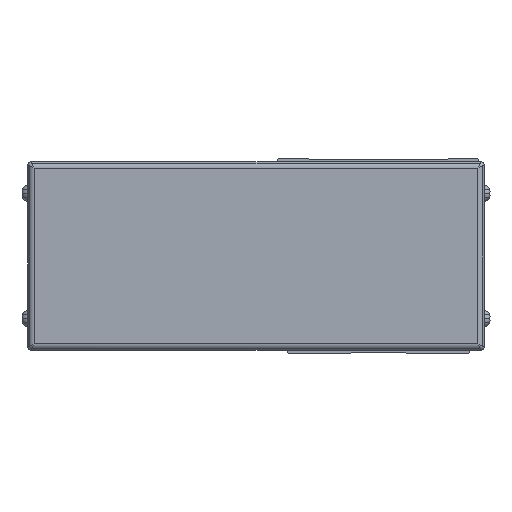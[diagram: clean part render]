
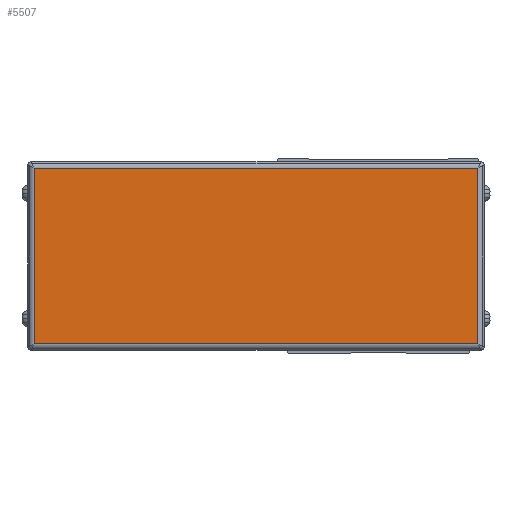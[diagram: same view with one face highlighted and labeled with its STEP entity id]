
A CAD part, front view. The second image highlights one B-rep face of the part: STEP entity #5507.
In plain terms, the highlighted planar face has unit normal (0, -1, 0).
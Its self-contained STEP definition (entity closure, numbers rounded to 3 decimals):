
#5507=ADVANCED_FACE('',(#11039),#11040,.F.);
#11039=FACE_OUTER_BOUND('',#17585,.T.);
#11040=PLANE('',#17586);
#17585=EDGE_LOOP('',(#33098,#33099,#33100,#33101));
#17586=AXIS2_PLACEMENT_3D('',#33102,#33103,#33104);
#33098=ORIENTED_EDGE('',*,*,#40397,.T.);
#33099=ORIENTED_EDGE('',*,*,#39509,.T.);
#33100=ORIENTED_EDGE('',*,*,#40398,.T.);
#33101=ORIENTED_EDGE('',*,*,#40399,.T.);
#33102=CARTESIAN_POINT('',(261.,-19.,-4.));
#33103=DIRECTION('',(0.,1.0,0.));
#33104=DIRECTION('',(0.,0.,1.0));
#39509=EDGE_CURVE('',#48514,#48512,#48515,.T.);
#40397=EDGE_CURVE('',#49652,#48514,#49656,.T.);
#40398=EDGE_CURVE('',#48512,#49657,#49658,.T.);
#40399=EDGE_CURVE('',#49657,#49652,#49659,.T.);
#48512=VERTEX_POINT('',#61260);
#48514=VERTEX_POINT('',#61262);
#48515=LINE('',#61263,#61264);
#49652=VERTEX_POINT('',#62850);
#49656=LINE('',#62854,#62855);
#49657=VERTEX_POINT('',#62856);
#49658=LINE('',#62857,#62858);
#49659=LINE('',#62859,#62860);
#61260=CARTESIAN_POINT('',(190.3,-19.,-32.));
#61262=CARTESIAN_POINT('',(190.3,-19.,24.));
#61263=CARTESIAN_POINT('',(190.3,-19.,-4.));
#61264=VECTOR('',#69301,10.0);
#62850=CARTESIAN_POINT('',(331.7,-19.,24.));
#62854=CARTESIAN_POINT('',(261.,-19.,24.));
#62855=VECTOR('',#70113,10.0);
#62856=CARTESIAN_POINT('',(331.7,-19.,-32.));
#62857=CARTESIAN_POINT('',(261.,-19.,-32.));
#62858=VECTOR('',#70114,10.0);
#62859=CARTESIAN_POINT('',(331.7,-19.,-4.));
#62860=VECTOR('',#70115,10.0);
#69301=DIRECTION('',(0.,0.,-1.0));
#70113=DIRECTION('',(-1.0,0.,0.));
#70114=DIRECTION('',(1.0,0.,0.));
#70115=DIRECTION('',(0.,0.,1.0));
